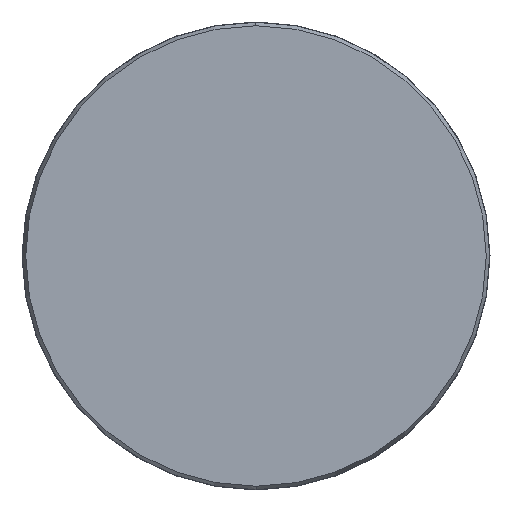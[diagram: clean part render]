
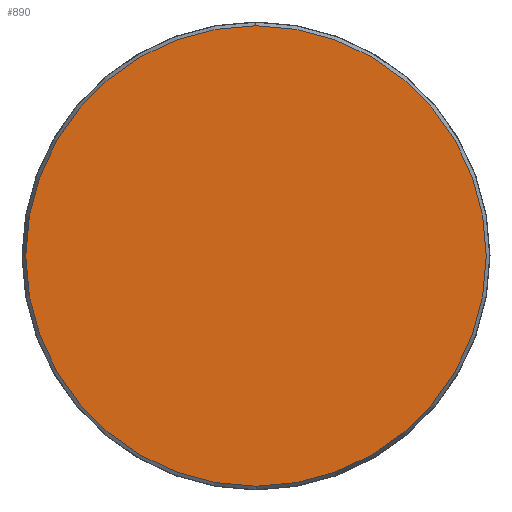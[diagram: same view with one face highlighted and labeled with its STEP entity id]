
A CAD part, left-side view. The second image highlights one B-rep face of the part: STEP entity #890.
In plain terms, the highlighted planar face has unit normal (-1, 0, 0).
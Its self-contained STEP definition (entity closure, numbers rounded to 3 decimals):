
#302=CARTESIAN_POINT('',(0.,0.,0.));
#303=DIRECTION('',(1.,0.,0.));
#304=DIRECTION('',(0.,0.,1.));
#305=AXIS2_PLACEMENT_3D('',#302,#303,#304);
#307=CARTESIAN_POINT('',(0.,0.,0.));
#308=DIRECTION('',(1.,0.,0.));
#309=DIRECTION('',(0.,0.,-1.));
#310=AXIS2_PLACEMENT_3D('',#307,#308,#309);
#397=CARTESIAN_POINT('',(0.,0.,61.));
#398=VERTEX_POINT('',#397);
#399=CARTESIAN_POINT('',(0.,0.,-61.));
#400=VERTEX_POINT('',#399);
#881=CARTESIAN_POINT('',(0.,0.,0.));
#882=DIRECTION('',(1.,0.,0.));
#883=DIRECTION('',(0.,0.,-1.));
#884=AXIS2_PLACEMENT_3D('',#881,#882,#883);
#885=PLANE('',#884);
#886=ORIENTED_EDGE('',*,*,#860,.T.);
#887=ORIENTED_EDGE('',*,*,#875,.T.);
#888=EDGE_LOOP('',(#886,#887));
#889=FACE_OUTER_BOUND('',#888,.F.);
#890=ADVANCED_FACE('',(#889),#885,.F.);
#306=CIRCLE('',#305,61.);
#311=CIRCLE('',#310,61.);
#860=EDGE_CURVE('',#398,#400,#306,.T.);
#875=EDGE_CURVE('',#400,#398,#311,.T.);
